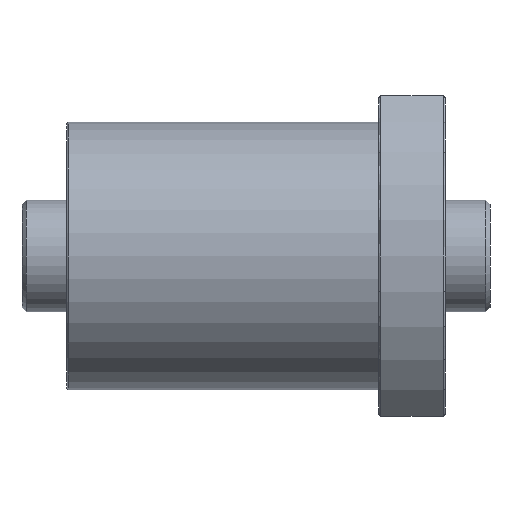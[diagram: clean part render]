
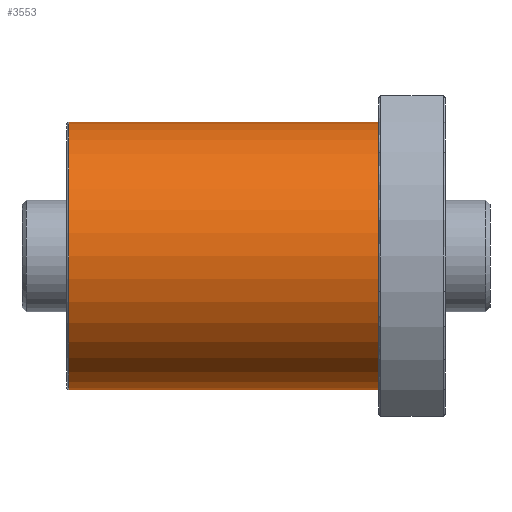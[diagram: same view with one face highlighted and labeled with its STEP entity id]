
A CAD part, front view. The second image highlights one B-rep face of the part: STEP entity #3553.
In plain terms, the highlighted cylindrical face has radius 30 mm (diameter 60 mm), a partial arc.
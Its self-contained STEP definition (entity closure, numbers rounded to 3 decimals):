
#30 = DIRECTION ( 'NONE',  ( 1., 0., 0. ) ) ;
#32 = FACE_OUTER_BOUND ( 'NONE', #2713, .T. ) ;
#88 = CARTESIAN_POINT ( 'NONE',  ( -69.5, 0., 0. ) ) ;
#277 = CIRCLE ( 'NONE', #2296, 30. ) ;
#534 = VERTEX_POINT ( 'NONE', #1228 ) ;
#746 = AXIS2_PLACEMENT_3D ( 'NONE', #2659, #2037, #1746 ) ;
#769 = EDGE_CURVE ( 'NONE', #534, #3559, #277, .T. ) ;
#1002 = DIRECTION ( 'NONE',  ( 0., 0., -1. ) ) ;
#1003 = CIRCLE ( 'NONE', #746, 30. ) ;
#1222 = VECTOR ( 'NONE', #2087, 1000. ) ;
#1228 = CARTESIAN_POINT ( 'NONE',  ( -69.5, 0., 30. ) ) ;
#1524 = CARTESIAN_POINT ( 'NONE',  ( -70., 0., 0. ) ) ;
#1585 = LINE ( 'NONE', #3413, #2845 ) ;
#1655 = DIRECTION ( 'NONE',  ( 1., 0., 0. ) ) ;
#1696 = ORIENTED_EDGE ( 'NONE', *, *, #3084, .T. ) ;
#1746 = DIRECTION ( 'NONE',  ( 0., 0., -1. ) ) ;
#1792 = CARTESIAN_POINT ( 'NONE',  ( 0., 0., 30. ) ) ;
#1863 = AXIS2_PLACEMENT_3D ( 'NONE', #1524, #30, #1002 ) ;
#1893 = ORIENTED_EDGE ( 'NONE', *, *, #3185, .F. ) ;
#1919 = DIRECTION ( 'NONE',  ( 1., 0., 0. ) ) ;
#2037 = DIRECTION ( 'NONE',  ( -1., 0., 0. ) ) ;
#2045 = EDGE_CURVE ( 'NONE', #3632, #3147, #1003, .T. ) ;
#2087 = DIRECTION ( 'NONE',  ( 1., 0., 0. ) ) ;
#2296 = AXIS2_PLACEMENT_3D ( 'NONE', #88, #1919, #3703 ) ;
#2431 = CARTESIAN_POINT ( 'NONE',  ( -69.5, 0., -30. ) ) ;
#2659 = CARTESIAN_POINT ( 'NONE',  ( 0., 0., 0. ) ) ;
#2713 = EDGE_LOOP ( 'NONE', ( #1893, #2995, #1696, #3496 ) ) ;
#2845 = VECTOR ( 'NONE', #1655, 1000. ) ;
#2951 = LINE ( 'NONE', #3655, #1222 ) ;
#2995 = ORIENTED_EDGE ( 'NONE', *, *, #769, .T. ) ;
#3084 = EDGE_CURVE ( 'NONE', #3559, #3632, #2951, .T. ) ;
#3147 = VERTEX_POINT ( 'NONE', #1792 ) ;
#3185 = EDGE_CURVE ( 'NONE', #534, #3147, #1585, .T. ) ;
#3275 = CYLINDRICAL_SURFACE ( 'NONE', #1863, 30. ) ;
#3337 = CARTESIAN_POINT ( 'NONE',  ( 0., 0., -30. ) ) ;
#3413 = CARTESIAN_POINT ( 'NONE',  ( -70., 0., 30. ) ) ;
#3496 = ORIENTED_EDGE ( 'NONE', *, *, #2045, .T. ) ;
#3553 = ADVANCED_FACE ( 'NONE', ( #32 ), #3275, .T. ) ;
#3559 = VERTEX_POINT ( 'NONE', #2431 ) ;
#3632 = VERTEX_POINT ( 'NONE', #3337 ) ;
#3655 = CARTESIAN_POINT ( 'NONE',  ( -70., 0., -30. ) ) ;
#3703 = DIRECTION ( 'NONE',  ( 0., 0., 1. ) ) ;
